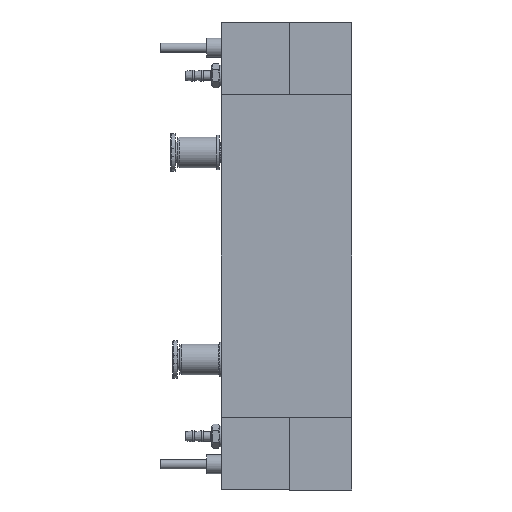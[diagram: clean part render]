
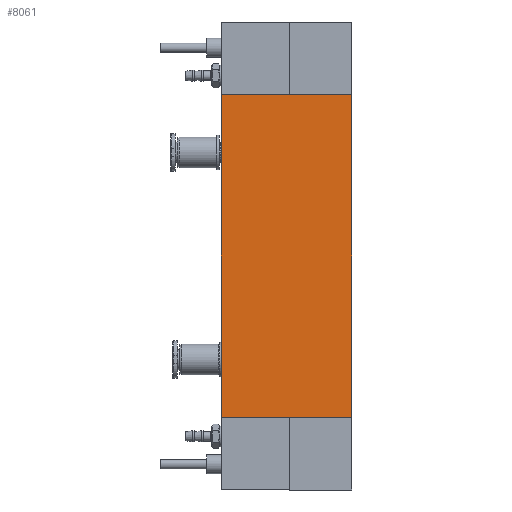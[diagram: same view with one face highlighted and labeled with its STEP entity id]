
A CAD part, left-side view. The second image highlights one B-rep face of the part: STEP entity #8061.
In plain terms, the highlighted planar face has unit normal (-1, 0, 0).
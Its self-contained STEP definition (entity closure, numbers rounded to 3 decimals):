
#1504=FACE_OUTER_BOUND('',#2043,.T.);
#2043=EDGE_LOOP('',(#7276,#7277,#7278,#7279));
#2636=LINE('',#14733,#3227);
#2637=LINE('',#14736,#3228);
#2638=LINE('',#14738,#3229);
#2639=LINE('',#14739,#3230);
#3227=VECTOR('',#11847,10.);
#3228=VECTOR('',#11850,10.);
#3229=VECTOR('',#11851,10.);
#3230=VECTOR('',#11852,10.);
#3992=VERTEX_POINT('',#14729);
#3993=VERTEX_POINT('',#14731);
#3994=VERTEX_POINT('',#14735);
#3995=VERTEX_POINT('',#14737);
#5100=EDGE_CURVE('',#3992,#3993,#2636,.T.);
#5101=EDGE_CURVE('',#3994,#3992,#2637,.T.);
#5102=EDGE_CURVE('',#3995,#3993,#2638,.T.);
#5103=EDGE_CURVE('',#3994,#3995,#2639,.T.);
#7276=ORIENTED_EDGE('',*,*,#5101,.T.);
#7277=ORIENTED_EDGE('',*,*,#5100,.T.);
#7278=ORIENTED_EDGE('',*,*,#5102,.F.);
#7279=ORIENTED_EDGE('',*,*,#5103,.F.);
#7608=PLANE('',#9334);
#8061=ADVANCED_FACE('',(#1504),#7608,.T.);
#9334=AXIS2_PLACEMENT_3D('',#14734,#11848,#11849);
#11847=DIRECTION('',(0.,0.,-1.));
#11848=DIRECTION('center_axis',(-1.,0.,0.));
#11849=DIRECTION('ref_axis',(0.,1.,0.));
#11850=DIRECTION('',(0.,1.,0.));
#11851=DIRECTION('',(0.,1.,0.));
#11852=DIRECTION('',(0.,0.,-1.));
#14729=CARTESIAN_POINT('',(-15.,34.,0.));
#14731=CARTESIAN_POINT('',(-15.,34.,-84.));
#14733=CARTESIAN_POINT('',(-15.,34.,0.));
#14734=CARTESIAN_POINT('Origin',(-15.,0.,0.));
#14735=CARTESIAN_POINT('',(-15.,0.,0.));
#14736=CARTESIAN_POINT('',(-15.,0.,0.));
#14737=CARTESIAN_POINT('',(-15.,0.,-84.));
#14738=CARTESIAN_POINT('',(-15.,0.,-84.));
#14739=CARTESIAN_POINT('',(-15.,0.,0.));
